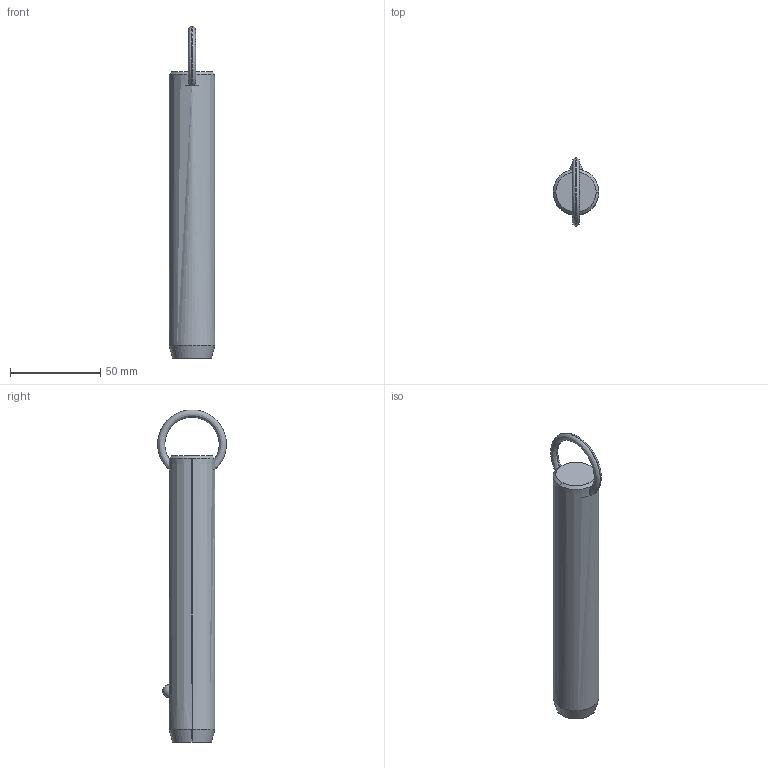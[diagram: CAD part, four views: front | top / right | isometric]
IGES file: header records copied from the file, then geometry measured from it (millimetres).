
Start section: SolidWorks IGES file using analytic representation for surfaces
Global section: file name: C:\Users\liam_\OneDrive\Documents\WORK\Work for WixRoyd\Job Files\J-00019 - Matt Davis CAD Checking\04. CAD Drawings\automotion20190605\P1250.2_v2\P1250.2_v2_20190729_IGES\P1250.100-450.igs; native system: SolidWorks 2017; preprocessor: SolidWorks 2017; author: liam_; date: 190730.174012; units: millimetre
Bounding box: 25.4 x 38.09 x 184.09 mm (x, y, z)
Surface area: 14437 mm2 (no closed solid volume)
Topology: 0 solids, 0 shells, 12 faces, 298 edges, 296 vertices
Faces by surface type: revolution 8, bspline 4
